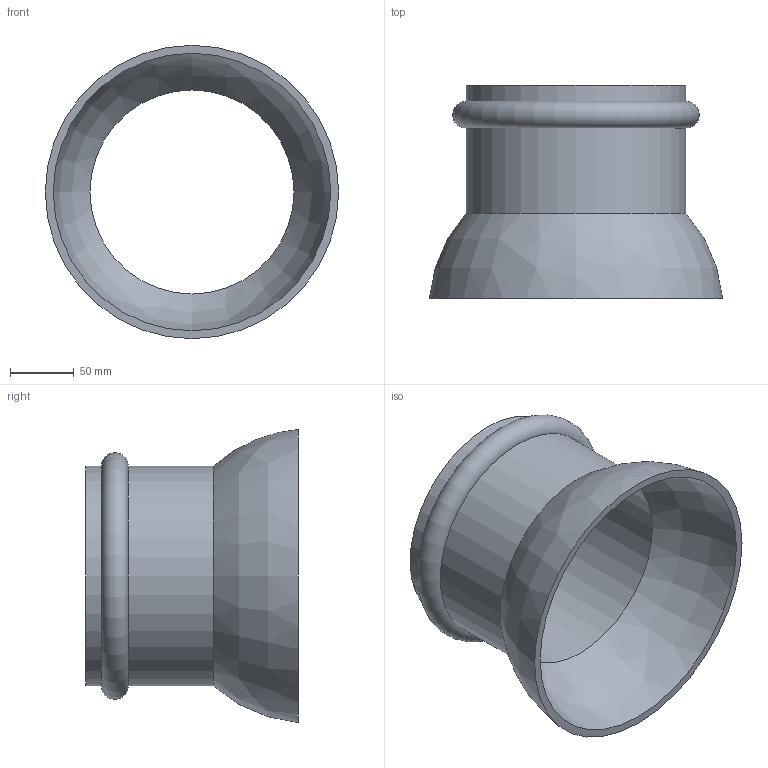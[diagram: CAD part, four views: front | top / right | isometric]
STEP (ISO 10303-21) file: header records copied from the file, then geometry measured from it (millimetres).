
FILE_DESCRIPTION( ( 'STEP AP214' ), '1' );
FILE_NAME( 'C:/Users/ilukic/Documents/ex/gebaudeentwasserung/pe/Geberit PE protecting cap/369.989.16.2.stp', '2020-03-26T18:42:19', ( '' ), ( '' ), ' ', 'PARTsolutions', ' ' );
FILE_SCHEMA( ( 'AUTOMOTIVE_DESIGN { 1 0 10303 214 1 1 1 1 }' ) );
Length unit declared in the file: millimetre
Products named in the file (1): _369.989.16.2
Bounding box: 230 x 167 x 230 mm (x, y, z)
Volume: 668272 mm3; surface area: 222872.2 mm2
Topology: 1 solids, 1 shells, 13 faces, 22 edges, 13 vertices
Faces by surface type: plane 4, cylinder 4, bspline 2, torus 2, cone 1
Full cylindrical faces by diameter (mm): 160 x2, 172.4 x2
Entity records: 442 total; most frequent: CARTESIAN_POINT 96, DIRECTION 50, EDGE_LOOP 26, ORIENTED_EDGE 26, AXIS2_PLACEMENT_3D 25, FACE_OUTER_BOUND 21, VERTEX_POINT 15, STYLED_ITEM 13
